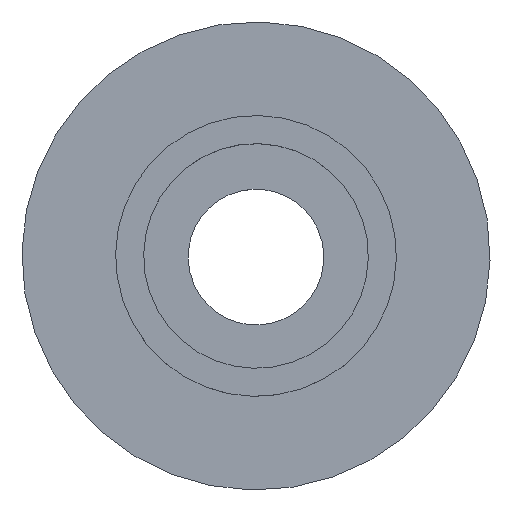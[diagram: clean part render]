
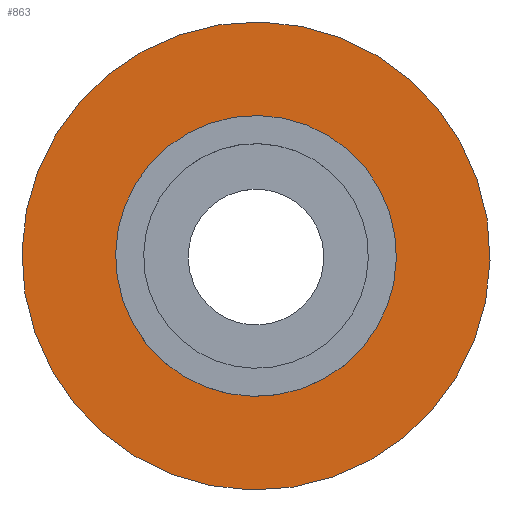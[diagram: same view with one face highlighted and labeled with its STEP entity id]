
A CAD part, top view. The second image highlights one B-rep face of the part: STEP entity #863.
In plain terms, the highlighted planar face has unit normal (0, 0, 1).
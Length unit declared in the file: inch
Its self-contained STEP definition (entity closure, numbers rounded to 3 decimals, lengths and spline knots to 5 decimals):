
#173=FACE_BOUND('',#268,.T.);
#201=FACE_OUTER_BOUND('',#267,.T.);
#267=EDGE_LOOP('',(#575));
#268=EDGE_LOOP('',(#576));
#341=CIRCLE('',#934,1.5625);
#342=CIRCLE('',#936,0.9375);
#373=VERTEX_POINT('',#1175);
#374=VERTEX_POINT('',#1178);
#455=EDGE_CURVE('',#373,#373,#341,.T.);
#456=EDGE_CURVE('',#374,#374,#342,.T.);
#575=ORIENTED_EDGE('',*,*,#455,.T.);
#576=ORIENTED_EDGE('',*,*,#456,.F.);
#780=PLANE('',#935);
#863=ADVANCED_FACE('',(#201,#173),#780,.T.);
#934=AXIS2_PLACEMENT_3D('',#1176,#1022,#1023);
#935=AXIS2_PLACEMENT_3D('',#1177,#1024,#1025);
#936=AXIS2_PLACEMENT_3D('',#1179,#1026,#1027);
#1022=DIRECTION('center_axis',(0.,0.,
1.));
#1023=DIRECTION('ref_axis',(0.517,0.856,0.));
#1024=DIRECTION('center_axis',(0.,0.,
1.));
#1025=DIRECTION('ref_axis',(0.856,-0.517,0.));
#1026=DIRECTION('center_axis',(0.,0.,
1.));
#1027=DIRECTION('ref_axis',(0.517,0.856,0.));
#1175=CARTESIAN_POINT('',(0.80809,1.33731,0.));
#1176=CARTESIAN_POINT('Origin',(0.,0.,
0.));
#1177=CARTESIAN_POINT('Origin',(0.64647,1.06985,0.));
#1178=CARTESIAN_POINT('',(0.48485,0.80239,0.));
#1179=CARTESIAN_POINT('Origin',(0.,0.,
0.));
